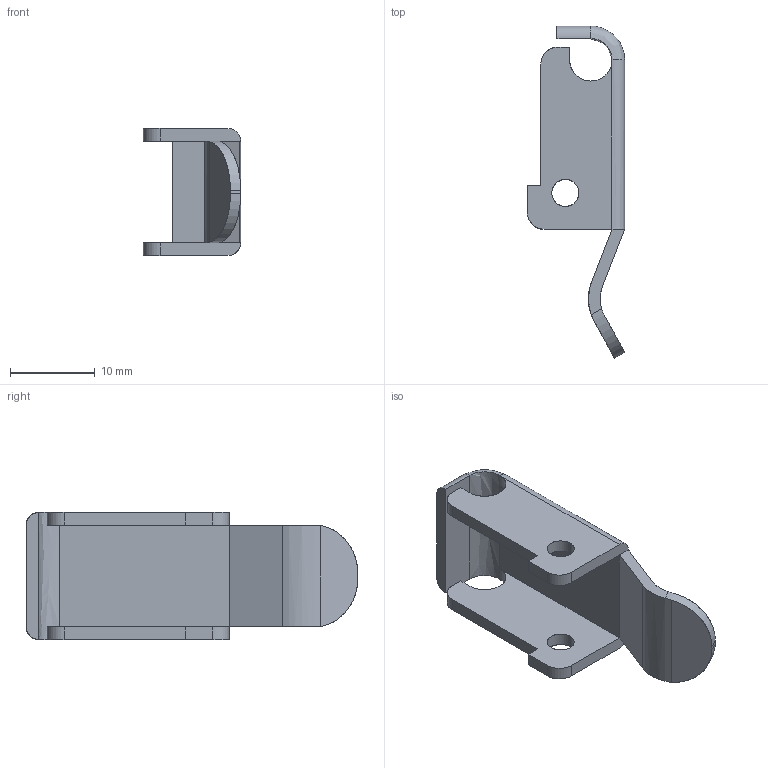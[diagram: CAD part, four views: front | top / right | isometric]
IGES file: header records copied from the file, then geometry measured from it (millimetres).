
Start section: SolidWorks IGES FILE using analytic representation for surfaces
Global section: file name: C:\Documents and Settings\brechard\Bureau\GO 6\06.010.10.IGS; native system: SolidWorks 2001Plus by SolidWorks Corporation; preprocessor: Version 5.3; author: brechard; date: 050126.141624; units: millimetre
Bounding box: 11.5 x 39.2 x 15 mm (x, y, z)
Surface area: 2108.1 mm2 (no closed solid volume)
Topology: 0 solids, 0 shells, 49 faces, 562 edges, 562 vertices
Faces by surface type: bspline 30, revolution 19
